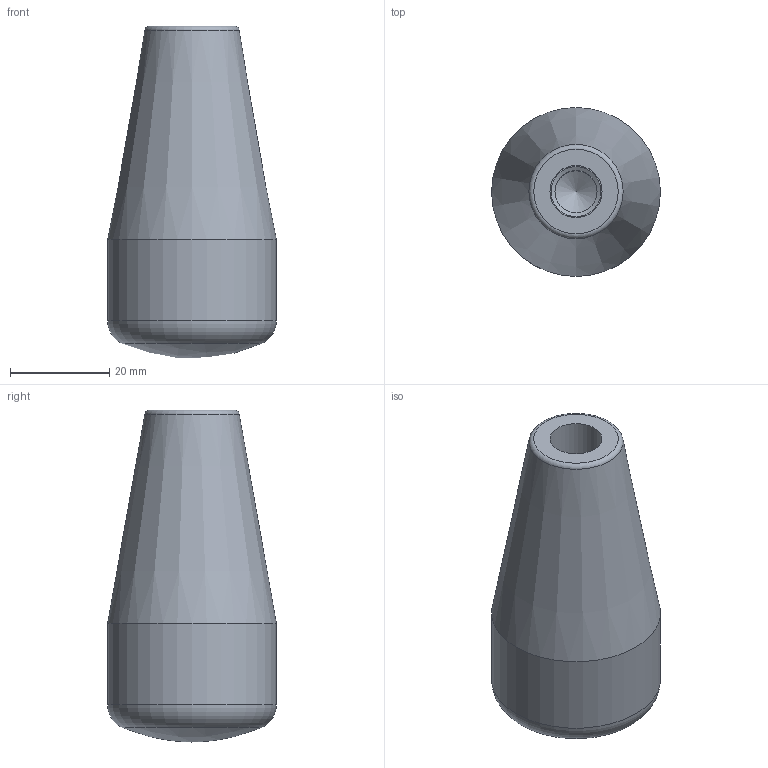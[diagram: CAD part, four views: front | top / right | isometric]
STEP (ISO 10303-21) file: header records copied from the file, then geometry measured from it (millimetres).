
FILE_DESCRIPTION (( 'STEP AP214' ), '1' );
FILE_NAME ('219-34-M10-67.step', '2019-04-26T09:56:11', ( 'user' ), ( '' ), 'SwSTEP 2.0', 'SolidWorks 2019', '' );
FILE_SCHEMA (( 'AUTOMOTIVE_DESIGN' ));
Length unit declared in the file: millimetre
Products named in the file (1): 219-34-M10-67
Bounding box: 34 x 34 x 66.88 mm (x, y, z)
Volume: 40976.7 mm3; surface area: 8050.6 mm2
Topology: 1 solids, 1 shells, 11 faces, 19 edges, 11 vertices
Faces by surface type: cylinder 3, cone 3, plane 2, torus 2, sphere 1
Full cylindrical faces by diameter (mm): 8.5 x1, 10.5 x1, 34 x1
Entity records: 259 total; most frequent: DIRECTION 44, CARTESIAN_POINT 32, AXIS2_PLACEMENT_3D 22, ORIENTED_EDGE 20, EDGE_LOOP 20, FACE_OUTER_BOUND 16, ADVANCED_FACE 11, VERTEX_POINT 10
